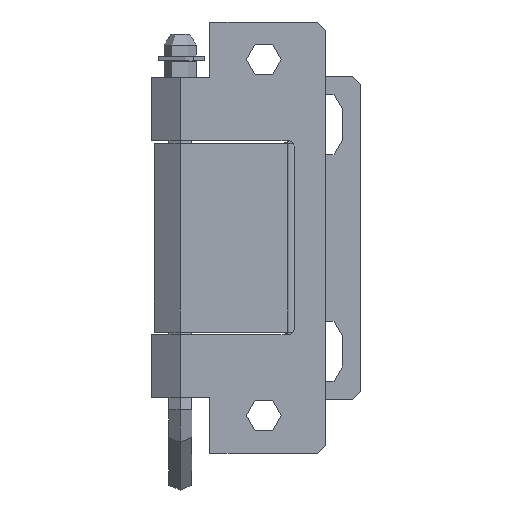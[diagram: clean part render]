
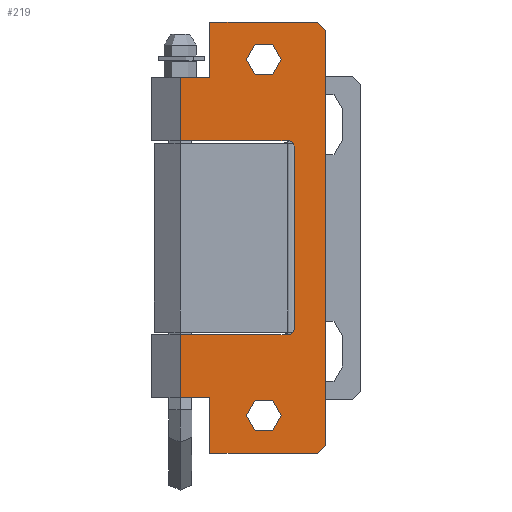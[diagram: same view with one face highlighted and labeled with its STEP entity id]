
A CAD part, top view. The second image highlights one B-rep face of the part: STEP entity #219.
In plain terms, the highlighted planar face has unit normal (0, 0, 1).
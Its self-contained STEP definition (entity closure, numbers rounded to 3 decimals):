
#30=B_SPLINE_CURVE_WITH_KNOTS('',1,(#3102,#3103),.UNSPECIFIED.,.F.,.F.,
(2,2),(1.5,78.5),.UNSPECIFIED.);
#36=B_SPLINE_CURVE_WITH_KNOTS('',1,(#3114,#3115),.UNSPECIFIED.,.F.,.F.,
(2,2),(5.5,25.5),.UNSPECIFIED.);
#37=B_SPLINE_CURVE_WITH_KNOTS('',1,(#3116,#3117),.UNSPECIFIED.,.F.,.F.,
(2,2),(27.9,61.5),.UNSPECIFIED.);
#38=B_SPLINE_CURVE_WITH_KNOTS('',1,(#3118,#3119),.UNSPECIFIED.,.F.,.F.,
(2,2),(63.9,83.9),.UNSPECIFIED.);
#44=B_SPLINE_CURVE_WITH_KNOTS('',1,(#3136,#3137),.UNSPECIFIED.,.F.,.F.,
(2,2),(58.,69.7),.UNSPECIFIED.);
#53=B_SPLINE_CURVE_WITH_KNOTS('',1,(#3190,#3191),.UNSPECIFIED.,.F.,.F.,
(2,2),(-2.121,0.),.UNSPECIFIED.);
#55=B_SPLINE_CURVE_WITH_KNOTS('',1,(#3194,#3195),.UNSPECIFIED.,.F.,.F.,
(2,2),(0.,2.121),.UNSPECIFIED.);
#58=B_SPLINE_CURVE_WITH_KNOTS('',1,(#3200,#3201),.UNSPECIFIED.,.F.,.F.,
(2,2),(0.,5.5),.UNSPECIFIED.);
#59=B_SPLINE_CURVE_WITH_KNOTS('',1,(#3202,#3203),.UNSPECIFIED.,.F.,.F.,
(2,2),(0.,10.3),.UNSPECIFIED.);
#63=B_SPLINE_CURVE_WITH_KNOTS('',1,(#3210,#3211),.UNSPECIFIED.,.F.,.F.,
(2,2),(-130.387,-110.387),.UNSPECIFIED.);
#68=B_SPLINE_CURVE_WITH_KNOTS('',1,(#3228,#3229),.UNSPECIFIED.,.F.,.F.,
(2,2),(0.,10.3),.UNSPECIFIED.);
#69=B_SPLINE_CURVE_WITH_KNOTS('',1,(#3230,#3231),.UNSPECIFIED.,.F.,.F.,
(2,2),(94.5,100.),.UNSPECIFIED.);
#73=B_SPLINE_CURVE_WITH_KNOTS('',1,(#3238,#3239),.UNSPECIFIED.,.F.,.F.,
(2,2),(-130.387,-110.387),.UNSPECIFIED.);
#74=B_SPLINE_CURVE_WITH_KNOTS('',1,(#3240,#3241),.UNSPECIFIED.,.F.,.F.,
(2,2),(10.3,22.),.UNSPECIFIED.);
#172=FACE_BOUND('',#451,.T.);
#173=FACE_BOUND('',#452,.T.);
#219=ADVANCED_FACE('',(#331,#172,#173),#1873,.T.);
#331=FACE_OUTER_BOUND('',#450,.T.);
#450=EDGE_LOOP('',(#695,#696,#697,#698,#699,#700,#701,#702,#703,#704,#705,
#706,#707,#708,#709,#710));
#451=EDGE_LOOP('',(#711,#712));
#452=EDGE_LOOP('',(#713,#714));
#695=ORIENTED_EDGE('',*,*,#1238,.T.);
#696=ORIENTED_EDGE('',*,*,#1237,.F.);
#697=ORIENTED_EDGE('',*,*,#1242,.T.);
#698=ORIENTED_EDGE('',*,*,#1219,.T.);
#699=ORIENTED_EDGE('',*,*,#1181,.T.);
#700=ORIENTED_EDGE('',*,*,#1221,.T.);
#701=ORIENTED_EDGE('',*,*,#1229,.F.);
#702=ORIENTED_EDGE('',*,*,#1225,.T.);
#703=ORIENTED_EDGE('',*,*,#1224,.T.);
#704=ORIENTED_EDGE('',*,*,#1197,.F.);
#705=ORIENTED_EDGE('',*,*,#1187,.T.);
#706=ORIENTED_EDGE('',*,*,#1213,.T.);
#707=ORIENTED_EDGE('',*,*,#1188,.T.);
#708=ORIENTED_EDGE('',*,*,#1215,.T.);
#709=ORIENTED_EDGE('',*,*,#1189,.T.);
#710=ORIENTED_EDGE('',*,*,#1243,.F.);
#711=ORIENTED_EDGE('',*,*,#1205,.T.);
#712=ORIENTED_EDGE('',*,*,#1248,.T.);
#713=ORIENTED_EDGE('',*,*,#1208,.T.);
#714=ORIENTED_EDGE('',*,*,#1251,.T.);
#1181=EDGE_CURVE('',#1744,#1743,#30,.T.);
#1187=EDGE_CURVE('',#1722,#1734,#36,.T.);
#1188=EDGE_CURVE('',#1736,#1735,#37,.T.);
#1189=EDGE_CURVE('',#1737,#1723,#38,.T.);
#1197=EDGE_CURVE('',#1722,#1753,#44,.T.);
#1205=EDGE_CURVE('',#1730,#1766,#1495,.T.);
#1208=EDGE_CURVE('',#1732,#1768,#1497,.T.);
#1213=EDGE_CURVE('',#1734,#1736,#1499,.T.);
#1215=EDGE_CURVE('',#1735,#1737,#1501,.T.);
#1219=EDGE_CURVE('',#1742,#1744,#53,.T.);
#1221=EDGE_CURVE('',#1743,#1745,#55,.T.);
#1224=EDGE_CURVE('',#1754,#1753,#58,.T.);
#1225=EDGE_CURVE('',#1752,#1754,#59,.T.);
#1229=EDGE_CURVE('',#1752,#1745,#63,.T.);
#1237=EDGE_CURVE('',#1760,#1761,#68,.T.);
#1238=EDGE_CURVE('',#1762,#1761,#69,.T.);
#1242=EDGE_CURVE('',#1760,#1742,#73,.T.);
#1243=EDGE_CURVE('',#1762,#1723,#74,.T.);
#1248=EDGE_CURVE('',#1766,#1730,#1507,.T.);
#1251=EDGE_CURVE('',#1768,#1732,#1509,.T.);
#1495=TRIMMED_CURVE($,#1607,(#3155),(#3156),.T.,.CARTESIAN.);
#1497=TRIMMED_CURVE($,#1609,(#3163),(#3164),.T.,.CARTESIAN.);
#1499=TRIMMED_CURVE($,#1611,(#3175),(#3176),.T.,.CARTESIAN.);
#1501=TRIMMED_CURVE($,#1613,(#3181),(#3182),.T.,.CARTESIAN.);
#1507=TRIMMED_CURVE($,#1619,(#3253),(#3254),.T.,.CARTESIAN.);
#1509=TRIMMED_CURVE($,#1621,(#3261),(#3262),.T.,.CARTESIAN.);
#1607=CIRCLE('',#2157,3.25);
#1609=CIRCLE('',#2159,3.25);
#1611=CIRCLE('',#2161,1.2);
#1613=CIRCLE('',#2163,1.2);
#1619=CIRCLE('',#2169,3.25);
#1621=CIRCLE('',#2171,3.25);
#1722=VERTEX_POINT('',#3054);
#1723=VERTEX_POINT('',#3055);
#1730=VERTEX_POINT('',#3062);
#1732=VERTEX_POINT('',#3064);
#1734=VERTEX_POINT('',#3066);
#1735=VERTEX_POINT('',#3067);
#1736=VERTEX_POINT('',#3068);
#1737=VERTEX_POINT('',#3069);
#1742=VERTEX_POINT('',#3074);
#1743=VERTEX_POINT('',#3075);
#1744=VERTEX_POINT('',#3076);
#1745=VERTEX_POINT('',#3077);
#1752=VERTEX_POINT('',#3084);
#1753=VERTEX_POINT('',#3085);
#1754=VERTEX_POINT('',#3086);
#1760=VERTEX_POINT('',#3092);
#1761=VERTEX_POINT('',#3093);
#1762=VERTEX_POINT('',#3094);
#1766=VERTEX_POINT('',#3098);
#1768=VERTEX_POINT('',#3100);
#1873=PLANE('',#2130);
#2130=AXIS2_PLACEMENT_3D('',#3031,#2398,$);
#2157=AXIS2_PLACEMENT_3D($,#3154,#2429,#2430);
#2159=AXIS2_PLACEMENT_3D($,#3162,#2433,#2434);
#2161=AXIS2_PLACEMENT_3D($,#3174,#2437,#2438);
#2163=AXIS2_PLACEMENT_3D($,#3180,#2441,#2442);
#2169=AXIS2_PLACEMENT_3D($,#3252,#2453,#2454);
#2171=AXIS2_PLACEMENT_3D($,#3260,#2457,#2458);
#2398=DIRECTION('',(0.,0.,1.));
#2429=DIRECTION('',(0.,0.,-1.));
#2430=DIRECTION('',(1.,0.,0.));
#2433=DIRECTION('',(0.,0.,-1.));
#2434=DIRECTION('',(1.,0.,0.));
#2437=DIRECTION('',(0.,0.,-1.));
#2438=DIRECTION('',(0.,1.,0.));
#2441=DIRECTION('',(0.,0.,-1.));
#2442=DIRECTION('',(1.,0.,0.));
#2453=DIRECTION('',(0.,0.,-1.));
#2454=DIRECTION('',(-1.,0.,0.));
#2457=DIRECTION('',(0.,0.,-1.));
#2458=DIRECTION('',(-1.,0.,0.));
#3031=CARTESIAN_POINT('',(-10.33,-40.,21.771));
#3054=CARTESIAN_POINT('',(-10.33,18.,21.771));
#3055=CARTESIAN_POINT('',(-10.33,-18.,21.771));
#3062=CARTESIAN_POINT('',(8.42,33.,21.771));
#3064=CARTESIAN_POINT('',(8.42,-33.,21.771));
#3066=CARTESIAN_POINT('',(9.67,18.,21.771));
#3067=CARTESIAN_POINT('',(10.87,-16.8,21.771));
#3068=CARTESIAN_POINT('',(10.87,16.8,21.771));
#3069=CARTESIAN_POINT('',(9.67,-18.,21.771));
#3074=CARTESIAN_POINT('',(15.17,-40.,21.771));
#3075=CARTESIAN_POINT('',(16.67,38.5,21.771));
#3076=CARTESIAN_POINT('',(16.67,-38.5,21.771));
#3077=CARTESIAN_POINT('',(15.17,40.,21.771));
#3084=CARTESIAN_POINT('',(-4.83,40.,21.771));
#3085=CARTESIAN_POINT('',(-10.33,29.7,21.771));
#3086=CARTESIAN_POINT('',(-4.83,29.7,21.771));
#3092=CARTESIAN_POINT('',(-4.83,-40.,21.771));
#3093=CARTESIAN_POINT('',(-4.83,-29.7,21.771));
#3094=CARTESIAN_POINT('',(-10.33,-29.7,21.771));
#3098=CARTESIAN_POINT('',(1.92,33.,21.771));
#3100=CARTESIAN_POINT('',(1.92,-33.,21.771));
#3102=CARTESIAN_POINT('',(16.67,-38.5,21.771));
#3103=CARTESIAN_POINT('',(16.67,38.5,21.771));
#3114=CARTESIAN_POINT('',(-10.33,18.,21.771));
#3115=CARTESIAN_POINT('',(9.67,18.,21.771));
#3116=CARTESIAN_POINT('',(10.87,16.8,21.771));
#3117=CARTESIAN_POINT('',(10.87,-16.8,21.771));
#3118=CARTESIAN_POINT('',(9.67,-18.,21.771));
#3119=CARTESIAN_POINT('',(-10.33,-18.,21.771));
#3136=CARTESIAN_POINT('',(-10.33,18.,21.771));
#3137=CARTESIAN_POINT('',(-10.33,29.7,21.771));
#3154=CARTESIAN_POINT('',(5.17,33.,21.771));
#3155=CARTESIAN_POINT('',(8.42,33.,21.771));
#3156=CARTESIAN_POINT('',(1.92,33.,21.771));
#3162=CARTESIAN_POINT('',(5.17,-33.,21.771));
#3163=CARTESIAN_POINT('',(8.42,-33.,21.771));
#3164=CARTESIAN_POINT('',(1.92,-33.,21.771));
#3174=CARTESIAN_POINT('',(9.67,16.8,21.771));
#3175=CARTESIAN_POINT('',(9.67,18.,21.771));
#3176=CARTESIAN_POINT('',(10.87,16.8,21.771));
#3180=CARTESIAN_POINT('',(9.67,-16.8,21.771));
#3181=CARTESIAN_POINT('',(10.87,-16.8,21.771));
#3182=CARTESIAN_POINT('',(9.67,-18.,21.771));
#3190=CARTESIAN_POINT('',(15.17,-40.,21.771));
#3191=CARTESIAN_POINT('',(16.67,-38.5,21.771));
#3194=CARTESIAN_POINT('',(16.67,38.5,21.771));
#3195=CARTESIAN_POINT('',(15.17,40.,21.771));
#3200=CARTESIAN_POINT('',(-4.83,29.7,21.771));
#3201=CARTESIAN_POINT('',(-10.33,29.7,21.771));
#3202=CARTESIAN_POINT('',(-4.83,40.,21.771));
#3203=CARTESIAN_POINT('',(-4.83,29.7,21.771));
#3210=CARTESIAN_POINT('',(-4.83,40.,21.771));
#3211=CARTESIAN_POINT('',(15.17,40.,21.771));
#3228=CARTESIAN_POINT('',(-4.83,-40.,21.771));
#3229=CARTESIAN_POINT('',(-4.83,-29.7,21.771));
#3230=CARTESIAN_POINT('',(-10.33,-29.7,21.771));
#3231=CARTESIAN_POINT('',(-4.83,-29.7,21.771));
#3238=CARTESIAN_POINT('',(-4.83,-40.,21.771));
#3239=CARTESIAN_POINT('',(15.17,-40.,21.771));
#3240=CARTESIAN_POINT('',(-10.33,-29.7,21.771));
#3241=CARTESIAN_POINT('',(-10.33,-18.,21.771));
#3252=CARTESIAN_POINT('',(5.17,33.,21.771));
#3253=CARTESIAN_POINT('',(1.92,33.,21.771));
#3254=CARTESIAN_POINT('',(8.42,33.,21.771));
#3260=CARTESIAN_POINT('',(5.17,-33.,21.771));
#3261=CARTESIAN_POINT('',(1.92,-33.,21.771));
#3262=CARTESIAN_POINT('',(8.42,-33.,21.771));
